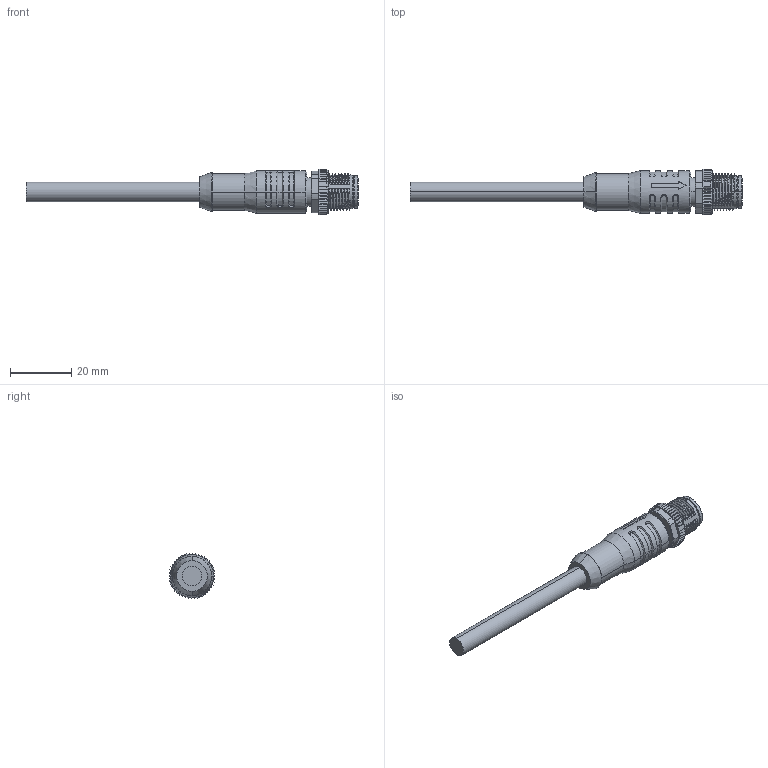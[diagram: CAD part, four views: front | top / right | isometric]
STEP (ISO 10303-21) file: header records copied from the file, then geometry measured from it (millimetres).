
FILE_DESCRIPTION (( 'STEP AP203' ), '1' );
FILE_NAME ('64S361-XXX.STEP', '2023-09-16T07:47:23', ( 'ADMIN' ), ( '' ), 'SwSTEP 2.0', 'SolidWorks 2016', '' );
FILE_SCHEMA (( 'CONFIG_CONTROL_DESIGN' ));
Products named in the file (1): 64S361-XXX
Bounding box: 108.8 x 15 x 14.99 mm (x, y, z)
Volume: 7224.1 mm3; surface area: 6198.5 mm2
Topology: 1 solids, 18 shells, 654 faces, 2046 edges, 1396 vertices
Faces by surface type: cylinder 229, plane 207, cone 134, bspline 64, torus 20
Entity records: 43582 total; most frequent: CARTESIAN_POINT 26890, ORIENTED_EDGE 4092, DIRECTION 2623, EDGE_CURVE 2046, VERTEX_POINT 1396, AXIS2_PLACEMENT_3D 1021, B_SPLINE_CURVE_WITH_KNOTS 1019, EDGE_LOOP 740
